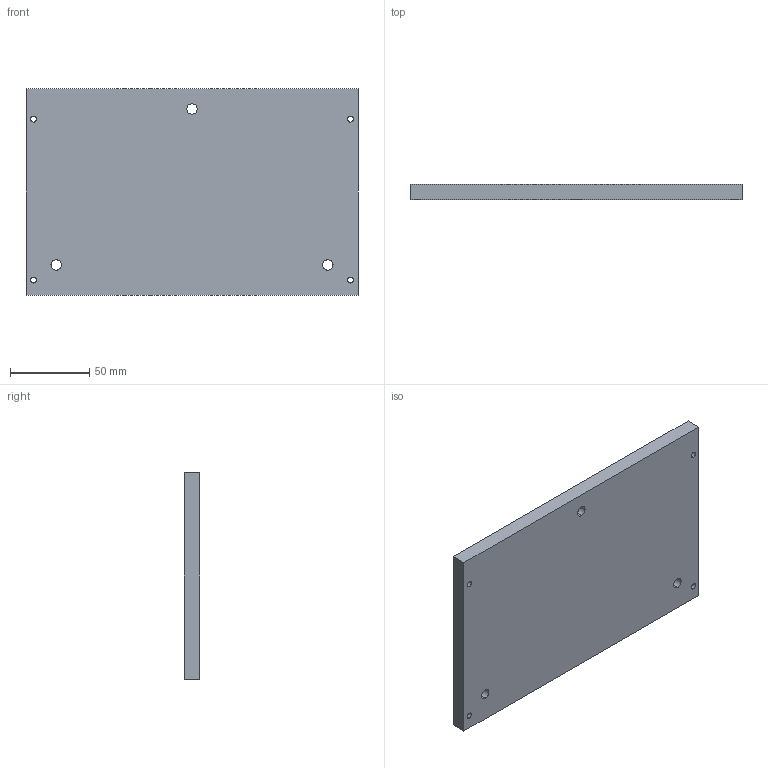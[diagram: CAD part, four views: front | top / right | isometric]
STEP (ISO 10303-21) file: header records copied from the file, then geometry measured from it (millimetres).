
FILE_DESCRIPTION (( 'STEP AP203' ), '1' );
FILE_NAME ('Base_Plate.STEP', '2026-01-29T02:20:15', ( '' ), ( '' ), 'SwSTEP 2.0', 'SolidWorks 2019', '' );
FILE_SCHEMA (( 'CONFIG_CONTROL_DESIGN' ));
Length unit declared in the file: inch
Products named in the file (1): Base_Plate
Bounding box: 209.55 x 9.53 x 130.18 mm (x, y, z)
Volume: 258414.3 mm3; surface area: 61779.3 mm2
Topology: 1 solids, 1 shells, 20 faces, 54 edges, 36 vertices
Faces by surface type: cylinder 14, plane 6
Entity records: 753 total; most frequent: DIRECTION 124, CARTESIAN_POINT 111, ORIENTED_EDGE 108, EDGE_CURVE 54, AXIS2_PLACEMENT_3D 49, VERTEX_POINT 36, EDGE_LOOP 34, CIRCLE 28
